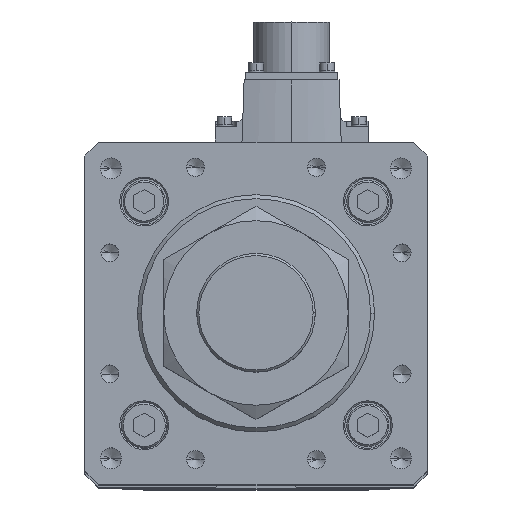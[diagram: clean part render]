
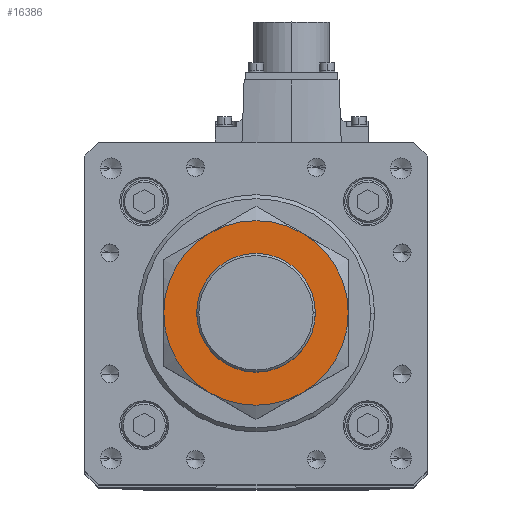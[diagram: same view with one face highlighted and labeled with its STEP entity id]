
A CAD part, top view. The second image highlights one B-rep face of the part: STEP entity #16386.
In plain terms, the highlighted planar face has unit normal (0, 0, 1).
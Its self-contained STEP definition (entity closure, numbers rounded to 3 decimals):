
#192 = AXIS2_PLACEMENT_3D ( 'NONE', #16580, #37233, #19551 ) ;
#440 = ORIENTED_EDGE ( 'NONE', *, *, #21499, .F. ) ;
#545 = CARTESIAN_POINT ( 'NONE',  ( 35., 0., 27. ) ) ;
#1187 = DIRECTION ( 'NONE',  ( 0., 0., -1. ) ) ;
#1476 = ORIENTED_EDGE ( 'NONE', *, *, #8127, .F. ) ;
#1722 = DIRECTION ( 'NONE',  ( -1., 0., 0. ) ) ;
#1732 = DIRECTION ( 'NONE',  ( 0., 0., 1. ) ) ;
#1822 = ORIENTED_EDGE ( 'NONE', *, *, #10883, .F. ) ;
#2276 = DIRECTION ( 'NONE',  ( 1., 0., 0. ) ) ;
#2416 = EDGE_CURVE ( 'NONE', #23445, #26084, #27536, .T. ) ;
#4259 = AXIS2_PLACEMENT_3D ( 'NONE', #7419, #1187, #1722 ) ;
#4298 = FACE_BOUND ( 'NONE', #6128, .T. ) ;
#4496 = CIRCLE ( 'NONE', #13935, 35. ) ;
#6128 = EDGE_LOOP ( 'NONE', ( #28719, #38247 ) ) ;
#6144 = EDGE_CURVE ( 'NONE', #6478, #13058, #18886, .T. ) ;
#6234 = CIRCLE ( 'NONE', #33286, 35. ) ;
#6478 = VERTEX_POINT ( 'NONE', #24630 ) ;
#7419 = CARTESIAN_POINT ( 'NONE',  ( 0., 0., 27. ) ) ;
#7659 = CARTESIAN_POINT ( 'NONE',  ( 17.5, 30.311, 27. ) ) ;
#8127 = EDGE_CURVE ( 'NONE', #26084, #37951, #13639, .T. ) ;
#8648 = DIRECTION ( 'NONE',  ( 0., 0., -1. ) ) ;
#9591 = DIRECTION ( 'NONE',  ( -1., 0., 0. ) ) ;
#9930 = AXIS2_PLACEMENT_3D ( 'NONE', #28127, #1732, #33958 ) ;
#10883 = EDGE_CURVE ( 'NONE', #37951, #33413, #4496, .T. ) ;
#11299 = DIRECTION ( 'NONE',  ( 0., 0., -1. ) ) ;
#12611 = ORIENTED_EDGE ( 'NONE', *, *, #36107, .F. ) ;
#12864 = EDGE_CURVE ( 'NONE', #13058, #6478, #15841, .T. ) ;
#13058 = VERTEX_POINT ( 'NONE', #20907 ) ;
#13162 = CARTESIAN_POINT ( 'NONE',  ( 0., 0., 27. ) ) ;
#13639 = CIRCLE ( 'NONE', #15303, 35. ) ;
#13913 = ORIENTED_EDGE ( 'NONE', *, *, #36251, .F. ) ;
#13935 = AXIS2_PLACEMENT_3D ( 'NONE', #25682, #11299, #16832 ) ;
#15303 = AXIS2_PLACEMENT_3D ( 'NONE', #35076, #8648, #20247 ) ;
#15841 = CIRCLE ( 'NONE', #30818, 22.5 ) ;
#16098 = DIRECTION ( 'NONE',  ( 0., 0., -1. ) ) ;
#16281 = VERTEX_POINT ( 'NONE', #545 ) ;
#16386 = ADVANCED_FACE ( 'NONE', ( #29618, #4298 ), #24899, .T. ) ;
#16580 = CARTESIAN_POINT ( 'NONE',  ( 0., 0., 27. ) ) ;
#16832 = DIRECTION ( 'NONE',  ( -1., 0., 0. ) ) ;
#17245 = CIRCLE ( 'NONE', #4259, 35. ) ;
#17682 = CIRCLE ( 'NONE', #21753, 35. ) ;
#18886 = CIRCLE ( 'NONE', #192, 22.5 ) ;
#19207 = DIRECTION ( 'NONE',  ( -1., 0., 0. ) ) ;
#19281 = EDGE_LOOP ( 'NONE', ( #12611, #13913, #440, #1822, #1476, #25107 ) ) ;
#19551 = DIRECTION ( 'NONE',  ( 1., 0., 0. ) ) ;
#19923 = DIRECTION ( 'NONE',  ( 0., 0., 1. ) ) ;
#20247 = DIRECTION ( 'NONE',  ( -1., 0., 0. ) ) ;
#20907 = CARTESIAN_POINT ( 'NONE',  ( 22.5, 0., 27. ) ) ;
#21499 = EDGE_CURVE ( 'NONE', #33413, #24846, #6234, .T. ) ;
#21753 = AXIS2_PLACEMENT_3D ( 'NONE', #33296, #24376, #9591 ) ;
#22040 = CARTESIAN_POINT ( 'NONE',  ( -17.5, -30.311, 27. ) ) ;
#23445 = VERTEX_POINT ( 'NONE', #37400 ) ;
#24376 = DIRECTION ( 'NONE',  ( 0., 0., -1. ) ) ;
#24630 = CARTESIAN_POINT ( 'NONE',  ( -22.5, 0., 27. ) ) ;
#24846 = VERTEX_POINT ( 'NONE', #7659 ) ;
#24899 = PLANE ( 'NONE',  #9930 ) ;
#25107 = ORIENTED_EDGE ( 'NONE', *, *, #2416, .F. ) ;
#25682 = CARTESIAN_POINT ( 'NONE',  ( 0., 0., 27. ) ) ;
#26084 = VERTEX_POINT ( 'NONE', #22040 ) ;
#27536 = CIRCLE ( 'NONE', #36934, 35. ) ;
#28127 = CARTESIAN_POINT ( 'NONE',  ( 0., 0., 27. ) ) ;
#28719 = ORIENTED_EDGE ( 'NONE', *, *, #6144, .F. ) ;
#28835 = CARTESIAN_POINT ( 'NONE',  ( -17.5, 30.311, 27. ) ) ;
#29565 = CARTESIAN_POINT ( 'NONE',  ( 0., 0., 27. ) ) ;
#29618 = FACE_OUTER_BOUND ( 'NONE', #19281, .T. ) ;
#29817 = DIRECTION ( 'NONE',  ( -1., 0., 0. ) ) ;
#29945 = DIRECTION ( 'NONE',  ( 0., 0., -1. ) ) ;
#30818 = AXIS2_PLACEMENT_3D ( 'NONE', #37592, #19923, #2276 ) ;
#33286 = AXIS2_PLACEMENT_3D ( 'NONE', #29565, #29945, #29817 ) ;
#33296 = CARTESIAN_POINT ( 'NONE',  ( 0., 0., 27. ) ) ;
#33386 = CARTESIAN_POINT ( 'NONE',  ( -35., 0., 27. ) ) ;
#33413 = VERTEX_POINT ( 'NONE', #28835 ) ;
#33958 = DIRECTION ( 'NONE',  ( 1., 0., 0. ) ) ;
#35076 = CARTESIAN_POINT ( 'NONE',  ( 0., 0., 27. ) ) ;
#36107 = EDGE_CURVE ( 'NONE', #16281, #23445, #17682, .T. ) ;
#36251 = EDGE_CURVE ( 'NONE', #24846, #16281, #17245, .T. ) ;
#36934 = AXIS2_PLACEMENT_3D ( 'NONE', #13162, #16098, #19207 ) ;
#37233 = DIRECTION ( 'NONE',  ( 0., 0., 1. ) ) ;
#37400 = CARTESIAN_POINT ( 'NONE',  ( 17.5, -30.311, 27. ) ) ;
#37592 = CARTESIAN_POINT ( 'NONE',  ( 0., 0., 27. ) ) ;
#37951 = VERTEX_POINT ( 'NONE', #33386 ) ;
#38247 = ORIENTED_EDGE ( 'NONE', *, *, #12864, .F. ) ;
